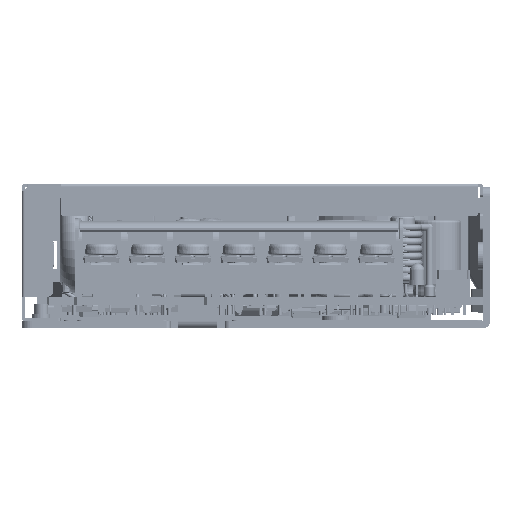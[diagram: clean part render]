
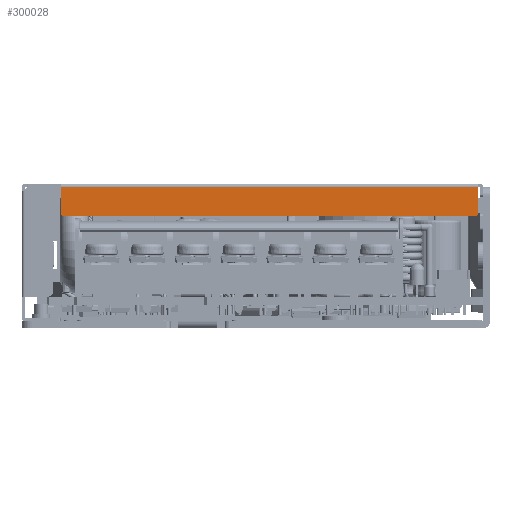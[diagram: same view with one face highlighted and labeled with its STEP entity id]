
A CAD part, left-side view. The second image highlights one B-rep face of the part: STEP entity #300028.
In plain terms, the highlighted planar face has unit normal (-1, 0, 0) as drawn and (0, -1, 0) by its records, which use the part's own axes.
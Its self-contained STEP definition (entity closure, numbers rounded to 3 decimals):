
#288688=DIRECTION('',(1.,0.,0.));
#288689=VECTOR('',#288688,5.6);
#288690=CARTESIAN_POINT('',(-5.6,-68.6,-46.75));
#288691=LINE('',#288690,#288689);
#288704=CARTESIAN_POINT('',(-5.6,-68.6,-46.25));
#288705=DIRECTION('',(0.,1.,0.));
#288706=DIRECTION('',(0.,0.,-1.));
#288707=AXIS2_PLACEMENT_3D('',#288704,#288705,#288706);
#288709=CARTESIAN_POINT('',(-5.6,-68.6,39.25));
#288710=DIRECTION('',(0.,1.,0.));
#288711=DIRECTION('',(-1.,0.,0.));
#288712=AXIS2_PLACEMENT_3D('',#288709,#288710,#288711);
#288714=DIRECTION('',(0.,0.,-1.));
#288715=VECTOR('',#288714,85.5);
#288716=CARTESIAN_POINT('',(-6.1,-68.6,39.25));
#288717=LINE('',#288716,#288715);
#288744=DIRECTION('',(-1.,0.,0.));
#288745=VECTOR('',#288744,5.6);
#288746=CARTESIAN_POINT('',(0.,-68.6,39.75));
#288747=LINE('',#288746,#288745);
#288773=DIRECTION('',(0.,0.,1.));
#288774=VECTOR('',#288773,86.5);
#288775=CARTESIAN_POINT('',(0.,-68.6,-46.75));
#288776=LINE('',#288775,#288774);
#292711=CARTESIAN_POINT('',(0.,-68.6,-46.75));
#292712=VERTEX_POINT('',#292711);
#292713=CARTESIAN_POINT('',(-5.6,-68.6,-46.75));
#292715=VERTEX_POINT('',#292713);
#292717=CARTESIAN_POINT('',(-6.1,-68.6,-46.25));
#292718=VERTEX_POINT('',#292717);
#292721=CARTESIAN_POINT('',(-6.1,-68.6,39.25));
#292722=VERTEX_POINT('',#292721);
#292723=CARTESIAN_POINT('',(-5.6,-68.6,39.75));
#292724=VERTEX_POINT('',#292723);
#292725=CARTESIAN_POINT('',(0.,-68.6,39.75));
#292726=VERTEX_POINT('',#292725);
#300011=CARTESIAN_POINT('',(0.6,-68.6,46.75));
#300012=DIRECTION('',(0.,-1.,0.));
#300013=DIRECTION('',(0.,0.,1.));
#300014=AXIS2_PLACEMENT_3D('',#300011,#300012,#300013);
#300015=PLANE('',#300014);
#300016=ORIENTED_EDGE('',*,*,#300001,.T.);
#300018=ORIENTED_EDGE('',*,*,#300017,.F.);
#300020=ORIENTED_EDGE('',*,*,#300019,.T.);
#300022=ORIENTED_EDGE('',*,*,#300021,.F.);
#300024=ORIENTED_EDGE('',*,*,#300023,.F.);
#300025=ORIENTED_EDGE('',*,*,#299988,.F.);
#300026=EDGE_LOOP('',(#300016,#300018,#300020,#300022,#300024,#300025));
#300027=FACE_OUTER_BOUND('',#300026,.F.);
#300028=ADVANCED_FACE('',(#300027),#300015,.T.);
#288708=CIRCLE('',#288707,0.5);
#288713=CIRCLE('',#288712,0.5);
#299988=EDGE_CURVE('',#292715,#292712,#288691,.T.);
#300001=EDGE_CURVE('',#292715,#292718,#288708,.T.);
#300017=EDGE_CURVE('',#292722,#292718,#288717,.T.);
#300019=EDGE_CURVE('',#292722,#292724,#288713,.T.);
#300021=EDGE_CURVE('',#292726,#292724,#288747,.T.);
#300023=EDGE_CURVE('',#292712,#292726,#288776,.T.);
